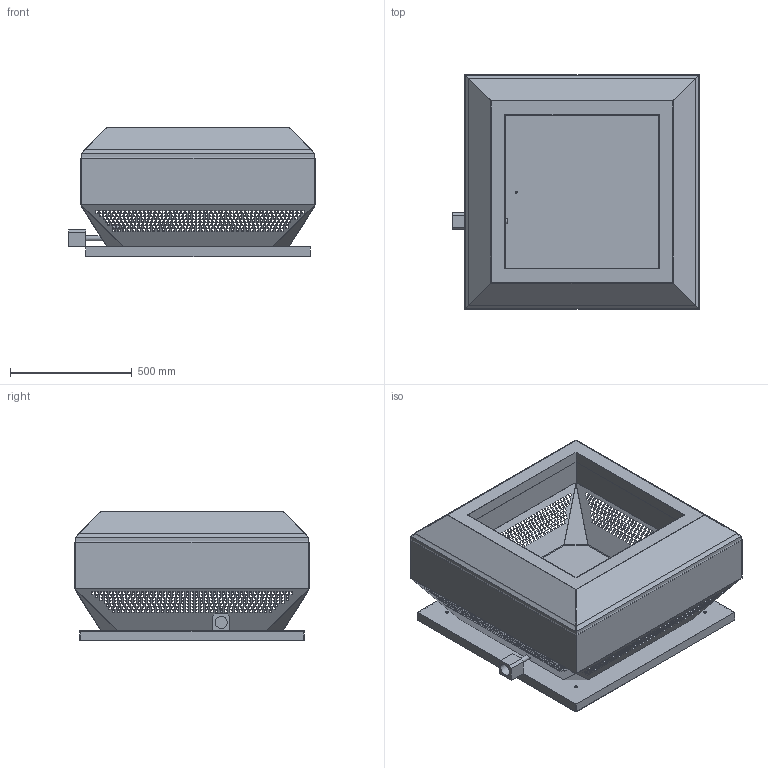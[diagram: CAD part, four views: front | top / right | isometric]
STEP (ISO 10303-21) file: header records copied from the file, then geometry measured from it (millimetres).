
FILE_DESCRIPTION(/* description */ (''),/* implementation_level */ '2;1');
FILE_NAME(/* name */ 'Z:\Output\RDD 500-4 EX-07416-001.stp',/* time_stamp */ '2017-05-05T16:42:13+02:00',/* author */ ('engineering1'),/* organization */ (''),/* preprocessor_version */ 'ST-DEVELOPER v16.5',/* originating_system */ 'Autodesk Inventor 2017',/* authorisation */ '');
FILE_SCHEMA (('AUTOMOTIVE_DESIGN { 1 0 10303 214 3 1 1 }'));
Products named in the file (1): RD-2
Bounding box: 1015.5 x 966 x 531 mm (x, y, z)
Volume: 6944213.4 mm3; surface area: 6442616 mm2
Topology: 1 solids, 1 shells, 4769 faces, 14251 edges, 9488 vertices
Faces by surface type: plane 4757, cylinder 10, bspline 2
Full cylindrical faces by diameter (mm): 8 x1, 12 x4, 20 x3, 50 x1
Entity records: 161635 total; most frequent: CARTESIAN_POINT 28546, ORIENTED_EDGE 28476, DIRECTION 23795, EDGE_CURVE 14237, LINE 14215, VECTOR 14215, VERTEX_POINT 9487, EDGE_LOOP 7141
